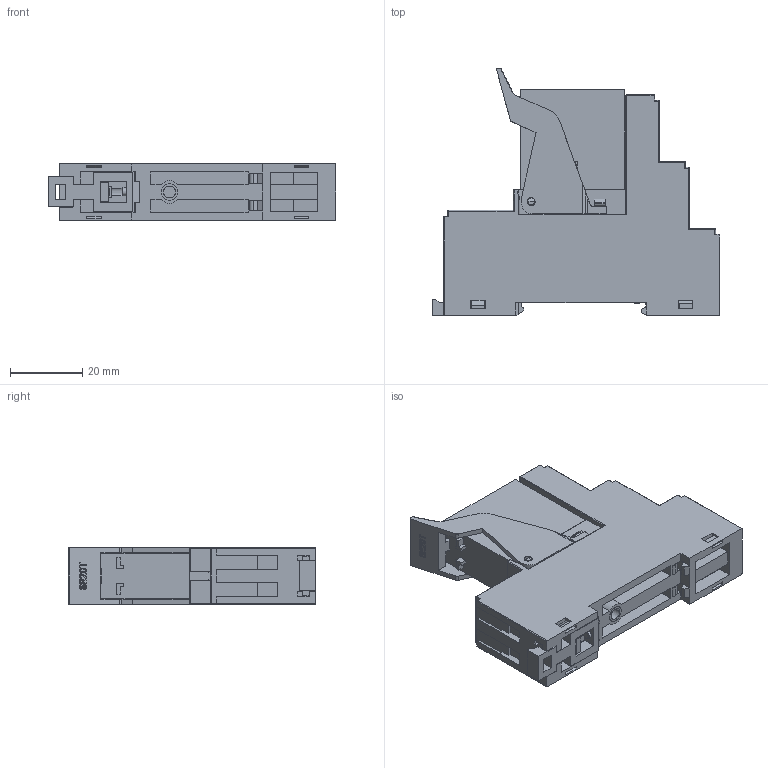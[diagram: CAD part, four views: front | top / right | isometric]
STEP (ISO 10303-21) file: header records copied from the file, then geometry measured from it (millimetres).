
FILE_DESCRIPTION (( 'STEP AP203' ), '1' );
FILE_NAME ('SRU08-E+RFT2CO 俋倛.STEP', '2023-02-01T05:16:16', ( '' ), ( '' ), 'SwSTEP 2.0', 'SolidWorks 2018', '' );
FILE_SCHEMA (( 'CONFIG_CONTROL_DESIGN' ));
Length unit declared in the file: millimetre
Products named in the file (1): SRU08-E+RFT2CO 俋倛
Bounding box: 79.58 x 68.32 x 15.7 mm (x, y, z)
Volume: 47826.9 mm3; surface area: 21109.1 mm2
Topology: 3 solids, 3 shells, 1667 faces, 4552 edges, 2939 vertices
Faces by surface type: plane 1123, cylinder 303, torus 98, bspline 82, cone 45, sphere 16
Entity records: 58558 total; most frequent: CARTESIAN_POINT 16853, ORIENTED_EDGE 9040, DIRECTION 8053, EDGE_CURVE 4520, LINE 3327, VECTOR 3327, VERTEX_POINT 2939, AXIS2_PLACEMENT_3D 2363
